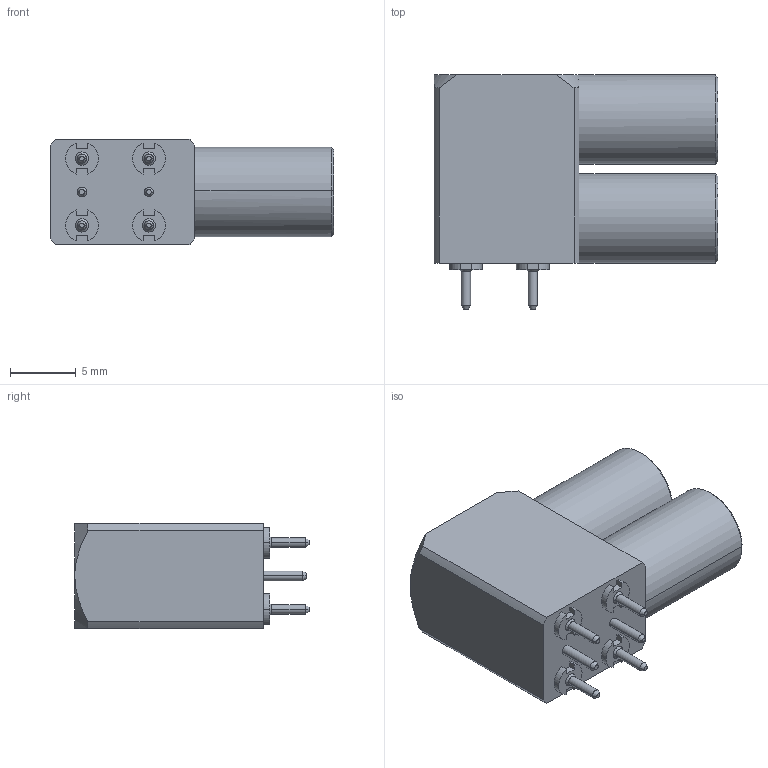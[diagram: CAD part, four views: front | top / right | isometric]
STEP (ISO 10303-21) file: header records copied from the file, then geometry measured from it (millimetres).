
FILE_DESCRIPTION(('STEP AP203'),'1');
FILE_NAME('epy_00_250_ntn.stp','2026-06-02T14:27:35',('TraceParts'),('TraceParts S.A.S.'),'Spatial InterOp 3D',' ',' ');
FILE_SCHEMA(('CONFIG_CONTROL_DESIGN'));
Length unit declared in the file: millimetre
Products named in the file (1): 1
Bounding box: 21.55 x 17.8 x 8 mm (x, y, z)
Volume: 2030.6 mm3; surface area: 1200.6 mm2
Topology: 1 solids, 1 shells, 106 faces, 258 edges, 162 vertices
Faces by surface type: plane 42, cylinder 36, cone 28
Entity records: 3113 total; most frequent: DIRECTION 563, CARTESIAN_POINT 537, ORIENTED_EDGE 508, EDGE_CURVE 254, AXIS2_PLACEMENT_3D 210, VERTEX_POINT 160, LINE 143, VECTOR 143
